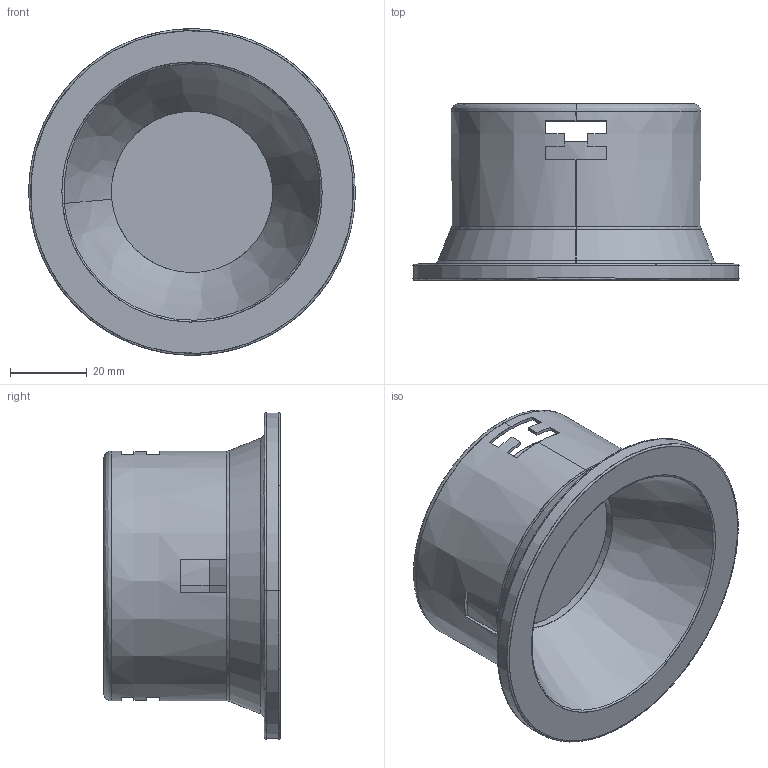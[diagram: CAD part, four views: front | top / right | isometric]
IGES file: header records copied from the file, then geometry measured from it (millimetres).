
Start section: SolidWorks IGES file using analytic representation for surfaces
Global section: file name: Z:\Modele 3D_WWW\_KOLEKCJE_WWW\CHARLIE-8367-8366\CHARLIE-8367-8366.IGS; native system: SolidWorks 2021; preprocessor: SolidWorks 2021; author: gabriela.tworek; date: 210629.143301; units: millimetre
Bounding box: 85 x 45.93 x 84.96 mm (x, y, z)
Surface area: 44297.9 mm2 (no closed solid volume)
Topology: 0 solids, 0 shells, 112 faces, 2017 edges, 2017 vertices
Faces by surface type: bspline 81, revolution 31
